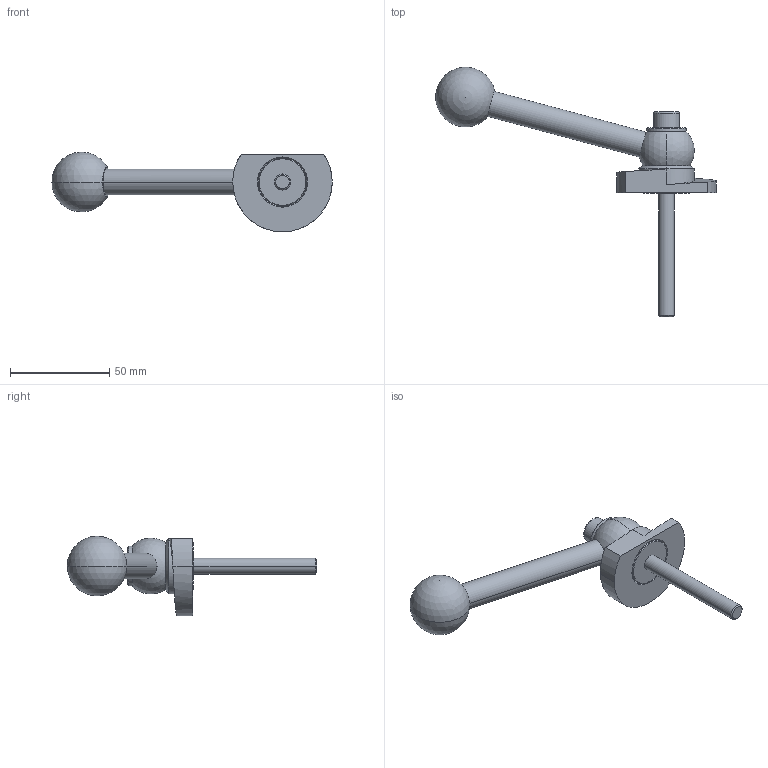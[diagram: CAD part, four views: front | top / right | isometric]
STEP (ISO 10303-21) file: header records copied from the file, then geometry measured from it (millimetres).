
FILE_DESCRIPTION (( 'STEP AP214' ), '1' );
FILE_NAME ('918.1-50-KVS-R-62.step', '2024-05-15T13:02:39', ( '' ), ( '' ), 'SwSTEP 2.0', 'SolidWorks 2022', '' );
FILE_SCHEMA (( 'AUTOMOTIVE_DESIGN' ));
Length unit declared in the file: millimetre
Products named in the file (1): 918.1-50-KVS-R-62
Bounding box: 140.94 x 125.31 x 40 mm (x, y, z)
Volume: 54563.4 mm3; surface area: 17047.6 mm2
Topology: 1 solids, 1 shells, 62 faces, 141 edges, 89 vertices
Faces by surface type: plane 20, cylinder 19, cone 14, sphere 4, bspline 3, torus 2
Entity records: 2011 total; most frequent: CARTESIAN_POINT 618, DIRECTION 305, ORIENTED_EDGE 262, EDGE_CURVE 131, AXIS2_PLACEMENT_3D 125, VERTEX_POINT 83, EDGE_LOOP 74, CIRCLE 65
